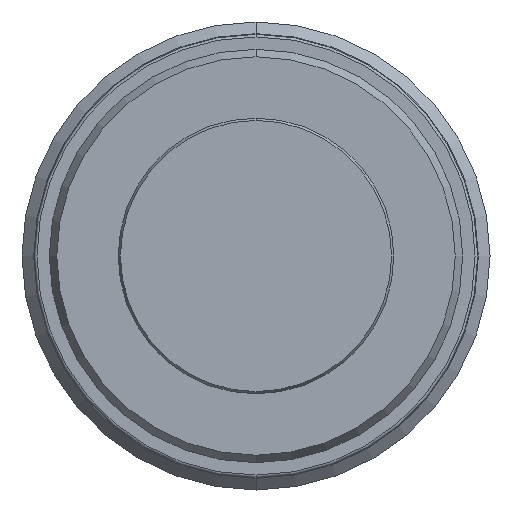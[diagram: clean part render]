
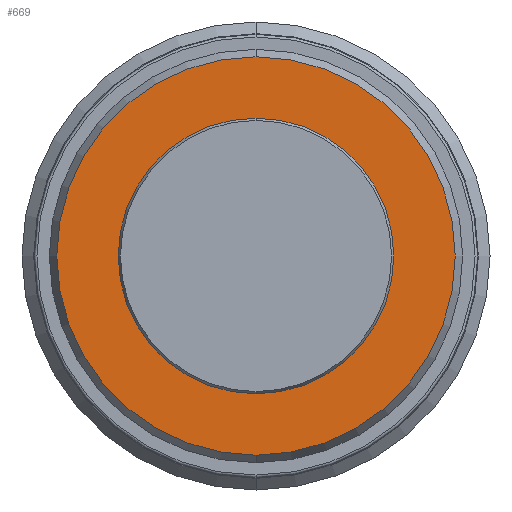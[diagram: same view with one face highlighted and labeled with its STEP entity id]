
A CAD part, front view. The second image highlights one B-rep face of the part: STEP entity #669.
In plain terms, the highlighted planar face has unit normal (0, -1, 0).
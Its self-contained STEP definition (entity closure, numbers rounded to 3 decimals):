
#495=PLANE('',#2377);
#513=FACE_BOUND('',#919,.T.);
#514=FACE_BOUND('',#920,.T.);
#669=ADVANCED_FACE('',(#513,#514),#495,.T.);
#919=EDGE_LOOP('',(#1563,#1564));
#920=EDGE_LOOP('',(#1565,#1566));
#1563=ORIENTED_EDGE('',*,*,#1880,.T.);
#1564=ORIENTED_EDGE('',*,*,#1984,.T.);
#1565=ORIENTED_EDGE('',*,*,#1882,.F.);
#1566=ORIENTED_EDGE('',*,*,#1983,.F.);
#1674=VERTEX_POINT('',#3299);
#1675=VERTEX_POINT('',#3301);
#1676=VERTEX_POINT('',#3305);
#1677=VERTEX_POINT('',#3306);
#1880=EDGE_CURVE('',#1675,#1674,#2079,.T.);
#1882=EDGE_CURVE('',#1676,#1677,#2080,.T.);
#1983=EDGE_CURVE('',#1677,#1676,#2127,.T.);
#1984=EDGE_CURVE('',#1674,#1675,#2128,.T.);
#2079=CIRCLE('',#2285,10.6);
#2080=CIRCLE('',#2287,15.323);
#2127=CIRCLE('',#2374,15.323);
#2128=CIRCLE('',#2376,10.6);
#2285=AXIS2_PLACEMENT_3D('',#3300,#2739,#2740);
#2287=AXIS2_PLACEMENT_3D('',#3304,#2744,#2745);
#2374=AXIS2_PLACEMENT_3D('',#3573,#2952,#2953);
#2376=AXIS2_PLACEMENT_3D('',#3575,#2956,#2957);
#2377=AXIS2_PLACEMENT_3D('',#3576,#2958,#2959);
#2739=DIRECTION('',(0.,1.,0.));
#2740=DIRECTION('',(0.,0.,1.));
#2744=DIRECTION('',(0.,1.,0.));
#2745=DIRECTION('',(0.,0.,1.));
#2952=DIRECTION('',(0.,1.,0.));
#2953=DIRECTION('',(0.,0.,1.));
#2956=DIRECTION('',(0.,1.,0.));
#2957=DIRECTION('',(0.,0.,1.));
#2958=DIRECTION('',(0.,-1.,0.));
#2959=DIRECTION('',(0.,0.,1.));
#3299=CARTESIAN_POINT('',(0.,-2.2,-10.6));
#3300=CARTESIAN_POINT('',(0.,-2.2,0.));
#3301=CARTESIAN_POINT('',(0.,-2.2,10.6));
#3304=CARTESIAN_POINT('',(0.,-2.2,0.));
#3305=CARTESIAN_POINT('',(0.,-2.2,15.323));
#3306=CARTESIAN_POINT('',(0.,-2.2,-15.323));
#3573=CARTESIAN_POINT('',(0.,-2.2,0.));
#3575=CARTESIAN_POINT('',(0.,-2.2,0.));
#3576=CARTESIAN_POINT('',(10.6,-2.2,0.));
